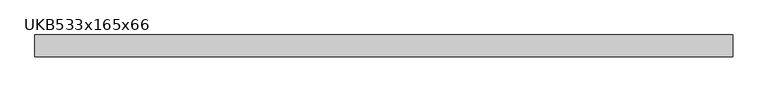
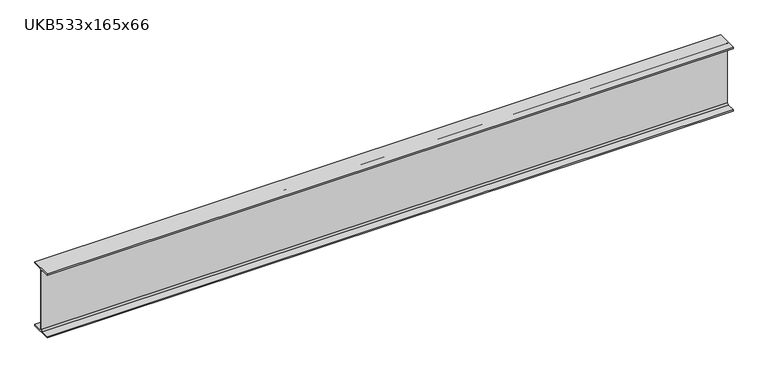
"""IFC4 building model written with IfcOpenShell, lengths in millimetres: beam geometry, UKB-UK Beams : UKB533x165x66."""

from ifc_helpers import new_model, si_unit, point, frame, frame_2d, origin, place, context, project, spatial, polyline, circle_curve, trimmed, segment, composite_curve, outline, extrude, source, transform, mapped, element, save


def ukb533x165x66_6c2c31ed(model_context):
    return source(origin(), model_context, "Body", "SweptSolid", [
        extrude(outline(composite_curve([segment(polyline([(82.55, -250.95), (82.55, -262.35), (-82.55, -262.35), (-82.55, -250.95), (-17.15, -250.95)]), True, "CONTINUOUS"), segment(trimmed(circle_curve(frame_2d((-17.15, -238.25)), 12.7), [point((-17.15, -250.95))], [point((-4.45, -238.25))], True, "CARTESIAN"), True, "CONTINUOUS"), segment(polyline([(-4.45, -238.25), (-4.45, 238.25)]), True, "CONTINUOUS"), segment(trimmed(circle_curve(frame_2d((-17.15, 238.25)), 12.7), [point((-4.45, 238.25))], [point((-17.15, 250.95))], True, "CARTESIAN"), True, "CONTINUOUS"), segment(polyline([(-17.15, 250.95), (-82.55, 250.95), (-82.55, 262.35), (82.55, 262.35), (82.55, 250.95), (17.15, 250.95)]), True, "CONTINUOUS"), segment(trimmed(circle_curve(frame_2d((17.15, 238.25)), 12.7), [point((17.15, 250.95))], [point((4.45, 238.25))], True, "CARTESIAN"), True, "CONTINUOUS"), segment(polyline([(4.45, 238.25), (4.45, -238.25)]), True, "CONTINUOUS"), segment(trimmed(circle_curve(frame_2d((17.15, -238.25)), 12.7), [point((4.45, -238.25))], [point((17.15, -250.95))], True, "CARTESIAN"), True, "CONTINUOUS"), segment(polyline([(17.15, -250.95), (82.55, -250.95)]), True, "CONTINUOUS")], self_intersect=False)), frame((-2654.0, 0.0, 0.0), z_axis=(1.0, 0.0, 0.0), x_axis=(0.0, 1.0, 0.0)), (0.0, 0.0, 1.0), 5308.0),
    ])


if __name__ == "__main__":
    model = new_model("IFC4")
    model_context = context("Model", 3, world=origin())
    ifc_project = project(units=[si_unit("LENGTHUNIT", "METRE", prefix="MILLI")], contexts=[model_context])
    site = spatial("IfcSite", under=ifc_project)
    building = spatial("IfcBuilding", under=site)
    placement = place(None, origin())
    ukb533x165x66_shape = ukb533x165x66_6c2c31ed(model_context)
    element("IfcBeam", 1, ObjectType="UKB-UK Beams : UKB533x165x66", at=placement, inside=building, context=model_context, shape_type="MappedRepresentation", body=[
        mapped(ukb533x165x66_shape, transform((0.0, 0.0, 0.0), x_axis=(1.0, 0.0, 0.0), y_axis=(0.0, 1.0, 0.0), z_axis=(0.0, 0.0, 1.0))),
    ])
    save(model, "model.ifc")
